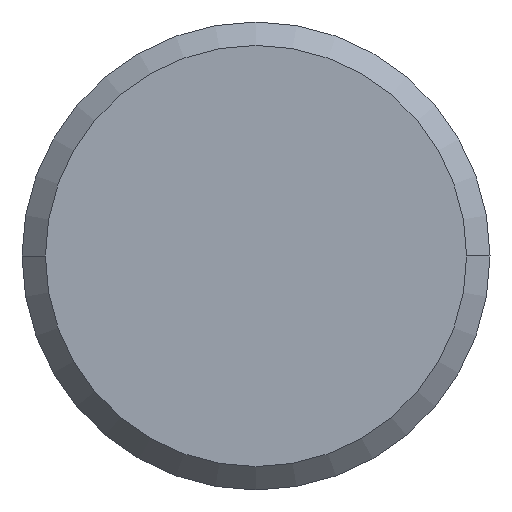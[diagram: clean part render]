
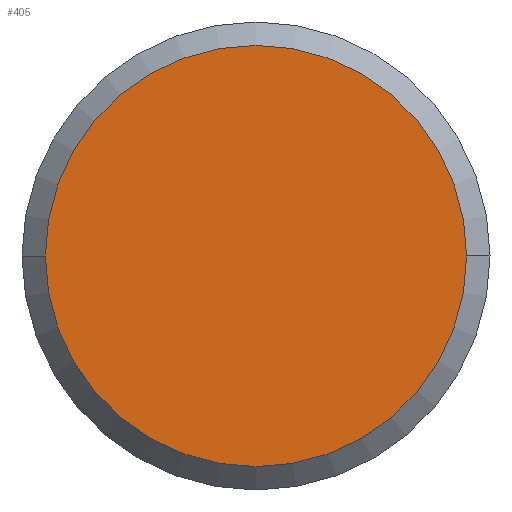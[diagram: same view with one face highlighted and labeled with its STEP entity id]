
A CAD part, left-side view. The second image highlights one B-rep face of the part: STEP entity #405.
In plain terms, the highlighted planar face has unit normal (-1, 0, 0).
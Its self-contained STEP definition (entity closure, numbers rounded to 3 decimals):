
#37 = DIRECTION ( 'NONE',  ( 1., 0., 0. ) ) ;
#41 = EDGE_CURVE ( 'NONE', #68, #262, #101, .T. ) ;
#66 = CARTESIAN_POINT ( 'NONE',  ( -42., -2.7, 0. ) ) ;
#68 = VERTEX_POINT ( 'NONE', #66 ) ;
#77 = DIRECTION ( 'NONE',  ( 0., 1., 0. ) ) ;
#100 = FACE_OUTER_BOUND ( 'NONE', #103, .T. ) ;
#101 = CIRCLE ( 'NONE', #274, 2.7 ) ;
#103 = EDGE_LOOP ( 'NONE', ( #310, #268 ) ) ;
#121 = CARTESIAN_POINT ( 'NONE',  ( -42., 0., 0. ) ) ;
#160 = DIRECTION ( 'NONE',  ( -1., 0., 0. ) ) ;
#189 = EDGE_CURVE ( 'NONE', #262, #68, #336, .T. ) ;
#218 = AXIS2_PLACEMENT_3D ( 'NONE', #411, #37, #77 ) ;
#219 = DIRECTION ( 'NONE',  ( 0., 1., 0. ) ) ;
#262 = VERTEX_POINT ( 'NONE', #392 ) ;
#268 = ORIENTED_EDGE ( 'NONE', *, *, #41, .F. ) ;
#274 = AXIS2_PLACEMENT_3D ( 'NONE', #415, #426, #219 ) ;
#310 = ORIENTED_EDGE ( 'NONE', *, *, #189, .F. ) ;
#334 = PLANE ( 'NONE',  #416 ) ;
#336 = CIRCLE ( 'NONE', #218, 2.7 ) ;
#392 = CARTESIAN_POINT ( 'NONE',  ( -42., 2.7, 0. ) ) ;
#403 = DIRECTION ( 'NONE',  ( 0., -1., 0. ) ) ;
#405 = ADVANCED_FACE ( 'NONE', ( #100 ), #334, .T. ) ;
#411 = CARTESIAN_POINT ( 'NONE',  ( -42., 0., 0. ) ) ;
#415 = CARTESIAN_POINT ( 'NONE',  ( -42., 0., 0. ) ) ;
#416 = AXIS2_PLACEMENT_3D ( 'NONE', #121, #160, #403 ) ;
#426 = DIRECTION ( 'NONE',  ( 1., 0., 0. ) ) ;
